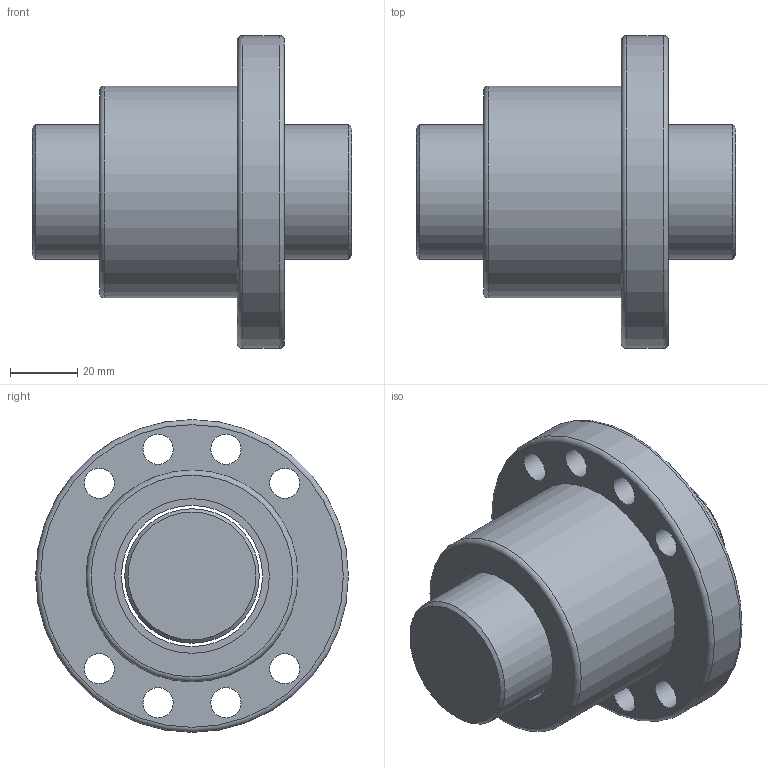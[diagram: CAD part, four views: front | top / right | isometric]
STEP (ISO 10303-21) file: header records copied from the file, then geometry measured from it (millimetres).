
FILE_DESCRIPTION(/* description */ (''),/* implementation_level */ '2;1');
FILE_NAME(/* name */ 'SFU4005',/* time_stamp */ '2007-10-26T13:31:40+08:00',/* author */ (''),/* organization */ (''),/* preprocessor_version */ 'ST-DEVELOPER v9',/* originating_system */ 'EDS PLM SOLUTIONS - UNIGRAPHICS NX 1.0',/* authorisation */ '');
FILE_SCHEMA (('CONFIG_CONTROL_DESIGN'));
Length unit declared in the file: millimetre
Products named in the file (1): FANNDA0400ic
Bounding box: 95 x 93 x 93 mm (x, y, z)
Volume: 258465.6 mm3; surface area: 50795 mm2
Topology: 4 solids, 4 shells, 34 faces, 72 edges, 49 vertices
Faces by surface type: cylinder 18, plane 11, torus 3, cone 2
Full cylindrical faces by diameter (mm): 9 x8, 40 x1, 42 x3, 46 x4, 63 x1, 93 x1
Entity records: 878 total; most frequent: DIRECTION 152, CARTESIAN_POINT 117, EDGE_LOOP 82, ORIENTED_EDGE 82, AXIS2_PLACEMENT_3D 76, FACE_BOUND 69, VERTEX_POINT 41, EDGE_CURVE 41
